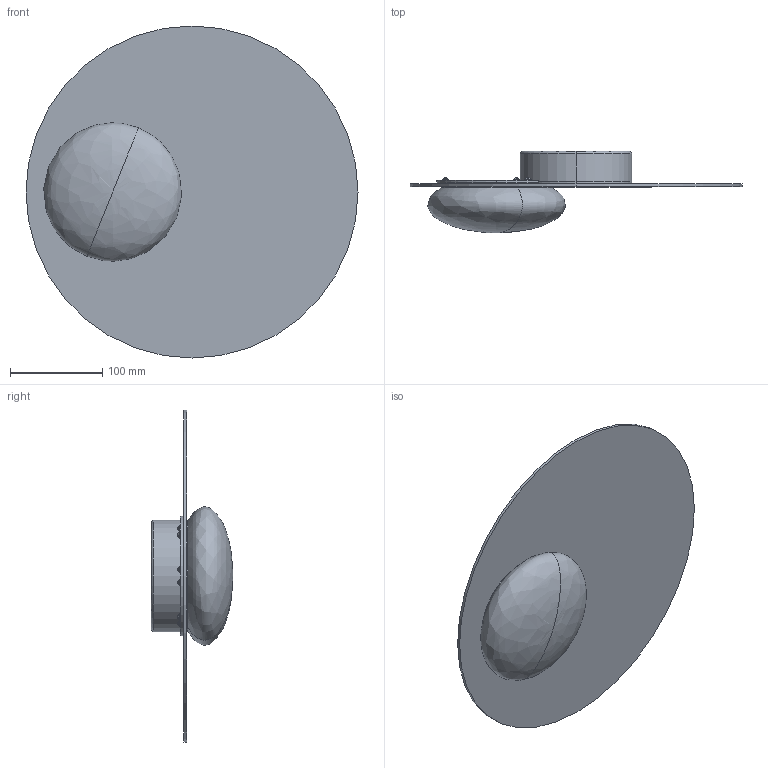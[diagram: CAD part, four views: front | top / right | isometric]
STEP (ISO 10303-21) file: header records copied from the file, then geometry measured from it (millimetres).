
FILE_DESCRIPTION (( 'STEP AP203' ), '1' );
FILE_NAME ('KWIC_Ceiling_360.STEP', '2019-07-25T13:27:22', ( '' ), ( '' ), 'SwSTEP 2.0', 'SolidWorks 2019', '' );
FILE_SCHEMA (( 'CONFIG_CONTROL_DESIGN' ));
Length unit declared in the file: millimetre
Products named in the file (10): WSAXO069VEAA020000.STEP; KWIC_CeilingBox.STEP; ISO7380_M3_H08.STEP; KWIC_DISC.STEP; KWIC_CeilingInterface.STEP; WSA5021-1-1-6-----_XX.STEP; KWIC_Ceiling_360; KWIC_BackDiffuser.STEP; KWIC_disc_360.STEP; KWIC_Ceiling_360.STEP
Assembly tree (19 placements, depth 4):
  KWIC_Ceiling_360
    KWIC_Ceiling_360.STEP
      KWIC_DISC.STEP
        KWIC_disc_360.STEP
        WSAXO069VEAA020000.STEP
        KWIC_BackDiffuser.STEP
        ISO7380_M3_H08.STEP  x6
        WSA5021-1-1-6-----_XX.STEP  x6
      KWIC_CeilingInterface.STEP
      KWIC_CeilingBox.STEP
Bounding box: 360 x 88.5 x 360 mm (x, y, z)
Volume: 483986.2 mm3; surface area: 356362.3 mm2
Topology: 17 solids, 17 shells, 374 faces, 906 edges, 576 vertices
Faces by surface type: cylinder 205, plane 91, cone 54, sphere 12, bspline 6, torus 6
Entity records: 9656 total; most frequent: CARTESIAN_POINT 1604, DIRECTION 1582, ORIENTED_EDGE 1304, AXIS2_PLACEMENT_3D 664, EDGE_CURVE 652, VERTEX_POINT 416, CIRCLE 392, EDGE_LOOP 348
